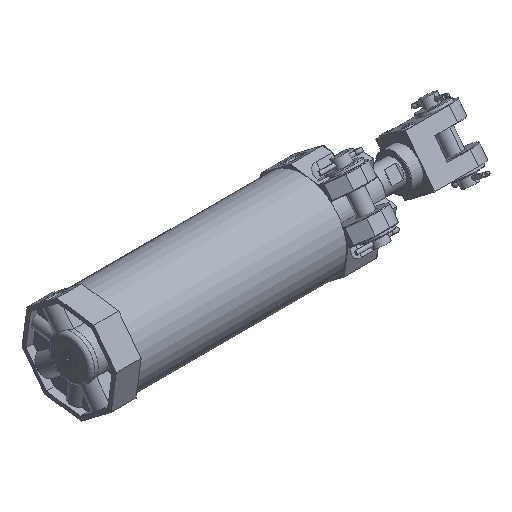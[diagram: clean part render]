
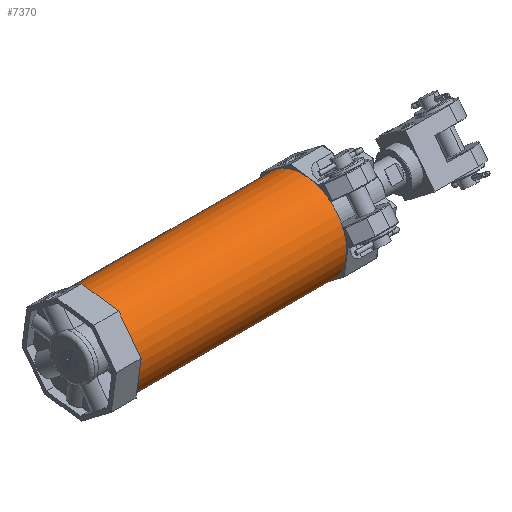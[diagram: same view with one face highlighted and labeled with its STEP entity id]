
A CAD part, isometric view. The second image highlights one B-rep face of the part: STEP entity #7370.
In plain terms, the highlighted cylindrical face has radius 35.5 mm (diameter 71 mm), a partial arc.
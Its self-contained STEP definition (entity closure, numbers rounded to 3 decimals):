
#7314=CARTESIAN_POINT('Axis2P3D Location',(84.,0.,0.)) ;
#7319=CARTESIAN_POINT('Line Origine',(84.,35.5,0.)) ;
#7323=CARTESIAN_POINT('Vertex',(0.,35.5,0.)) ;
#7325=CARTESIAN_POINT('Vertex',(168.,35.5,0.)) ;
#7332=CARTESIAN_POINT('Vertex',(0.,-35.5,0.)) ;
#7335=CARTESIAN_POINT('Line Origine',(84.,-35.5,0.)) ;
#7339=CARTESIAN_POINT('Vertex',(168.,-35.5,0.)) ;
#7354=CARTESIAN_POINT('Axis2P3D Location',(0.,0.,0.)) ;
#7359=CARTESIAN_POINT('Axis2P3D Location',(168.,0.,0.)) ;
#7315=DIRECTION('Axis2P3D Direction',(1.,0.,0.)) ;
#7316=DIRECTION('Axis2P3D XDirection',(0.,1.,0.)) ;
#7320=DIRECTION('Vector Direction',(1.,0.,0.)) ;
#7336=DIRECTION('Vector Direction',(1.,0.,0.)) ;
#7355=DIRECTION('Axis2P3D Direction',(1.,0.,0.)) ;
#7360=DIRECTION('Axis2P3D Direction',(1.,0.,0.)) ;
#7317=AXIS2_PLACEMENT_3D('Cylinder Axis2P3D',#7314,#7315,#7316) ;
#7356=AXIS2_PLACEMENT_3D('Circle Axis2P3D',#7354,#7355,$) ;
#7361=AXIS2_PLACEMENT_3D('Circle Axis2P3D',#7359,#7360,$) ;
#7365=ORIENTED_EDGE('',*,*,#7341,.F.) ;
#7366=ORIENTED_EDGE('',*,*,#7358,.T.) ;
#7367=ORIENTED_EDGE('',*,*,#7327,.T.) ;
#7368=ORIENTED_EDGE('',*,*,#7363,.F.) ;
#7321=VECTOR('Line Direction',#7320,1.) ;
#7337=VECTOR('Line Direction',#7336,1.) ;
#7370=ADVANCED_FACE('PartBody',(#7369),#7318,.T.) ;
#7357=CIRCLE('generated circle',#7356,35.5) ;
#7362=CIRCLE('generated circle',#7361,35.5) ;
#7318=CYLINDRICAL_SURFACE('generated cylinder',#7317,35.5) ;
#7327=EDGE_CURVE('',#7324,#7326,#7322,.T.) ;
#7341=EDGE_CURVE('',#7333,#7340,#7338,.T.) ;
#7358=EDGE_CURVE('',#7333,#7324,#7357,.T.) ;
#7363=EDGE_CURVE('',#7340,#7326,#7362,.T.) ;
#7364=EDGE_LOOP('',(#7365,#7366,#7367,#7368)) ;
#7369=FACE_OUTER_BOUND('',#7364,.T.) ;
#7322=LINE('Line',#7319,#7321) ;
#7338=LINE('Line',#7335,#7337) ;
#7324=VERTEX_POINT('',#7323) ;
#7326=VERTEX_POINT('',#7325) ;
#7333=VERTEX_POINT('',#7332) ;
#7340=VERTEX_POINT('',#7339) ;
